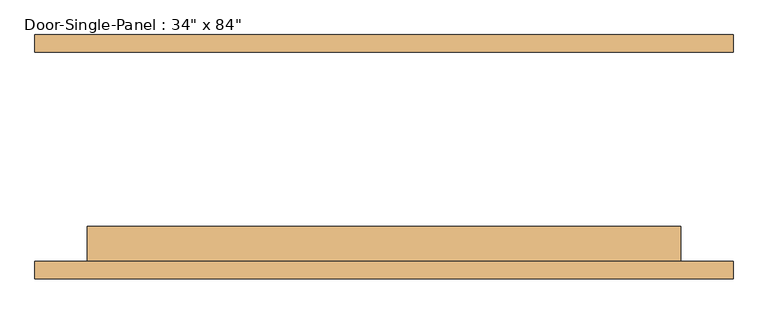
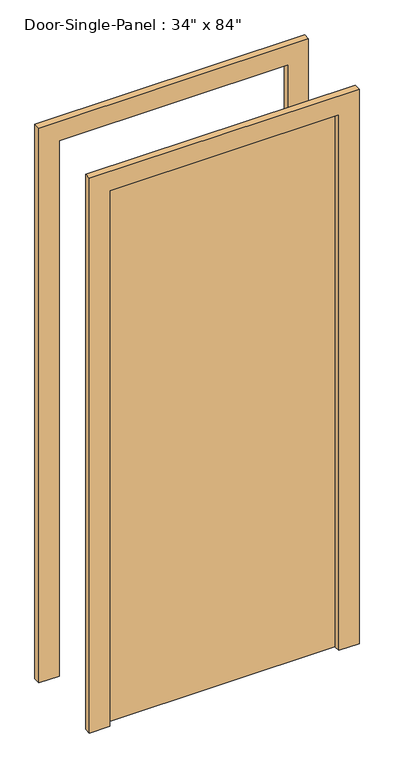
"""IFC4 building model written with IfcOpenShell, lengths in millimetres: door geometry."""

import ifcopenshell
import ifcopenshell.guid

model = None  # the IFC model being written
_history = None  # IfcOwnerHistory: only IFC2X3 demands one
_inside = {}  # id of a spatial element -> (the spatial element, [elements in it])
_under = {}  # id of a project, library or spatial element -> (it, [spatial elements below it])
_declared = {}  # id of a project -> (the project, [libraries it declares])
_typed = {}  # id of a type object -> (the type object, [elements of that type])
_made_of = {}  # id of a material, layer set ... -> (it, [elements and type objects made of it])


def new_model(schema):
    """Start an empty IFC model of exactly this schema.

    Asked for "IFC4X3", IfcOpenShell would pick the latest addendum, in which some entities
    have other attributes; the version numbers below select the first issue.
    IFC2X3 requires an IfcOwnerHistory on every rooted entity: one is made here for all.
    """
    global model, _history
    if schema == "IFC4X3":
        model = ifcopenshell.file(schema_version=(4, 3, 0, 0))
    else:
        model = ifcopenshell.file(schema=schema)
    _inside.clear()
    _under.clear()
    _declared.clear()
    _typed.clear()
    _made_of.clear()
    _history = None
    if model.schema == "IFC2X3":
        org = make("IfcOrganization", Name="unknown")
        user = make(
            "IfcPersonAndOrganization",
            ThePerson=make("IfcPerson", FamilyName="unknown"),
            TheOrganization=org,
        )
        app = make(
            "IfcApplication",
            ApplicationDeveloper=org,
            Version="unknown",
            ApplicationFullName="unknown",
            ApplicationIdentifier="unknown",
        )
        _history = make(
            "IfcOwnerHistory",
            OwningUser=user,
            OwningApplication=app,
            ChangeAction="ADDED",
            CreationDate=0,
        )
    return model


def make(cls, **values):
    """One entity of the class cls with the attributes given. An attribute that is None is left unset."""
    return model.create_entity(
        cls, **{name: value for name, value in values.items() if value is not None}
    )


def rooted(cls, **values):
    """An entity with a GlobalId (a new one), such as an element, a storey or a relation."""
    return make(cls, GlobalId=ifcopenshell.guid.new(), OwnerHistory=_history, **values)


def si_unit(unit_type, name, prefix=None):
    """IfcSIUnit, for example si_unit("LENGTHUNIT", "METRE", prefix="MILLI")."""
    return make("IfcSIUnit", UnitType=unit_type, Prefix=prefix, Name=name)


def assignment(units):
    """IfcUnitAssignment: the units of a project."""
    return None if units is None else make("IfcUnitAssignment", Units=units)


def point(xyz):
    """IfcCartesianPoint."""
    return None if xyz is None else make("IfcCartesianPoint", Coordinates=xyz)


def direction(xyz):
    """IfcDirection."""
    return None if xyz is None else make("IfcDirection", DirectionRatios=xyz)


def frame(location, z_axis=None, x_axis=None):
    """IfcAxis2Placement3D, a coordinate frame: its origin and axes. An axis left out is left unset."""
    return make(
        "IfcAxis2Placement3D",
        Location=point(location),
        Axis=direction(z_axis),
        RefDirection=direction(x_axis),
    )


def origin():
    """The frame at (0, 0, 0) with its axes left unset."""
    return frame((0.0, 0.0, 0.0))


def origin_with_axes():
    """The frame at (0, 0, 0) with the z axis (0, 0, 1) and the x axis (1, 0, 0) written out."""
    return frame((0.0, 0.0, 0.0), z_axis=(0.0, 0.0, 1.0), x_axis=(1.0, 0.0, 0.0))


def place(relative_to, where):
    """IfcLocalPlacement: puts the frame where relative to a parent placement (None: the world)."""
    return make(
        "IfcLocalPlacement", PlacementRelTo=relative_to, RelativePlacement=where
    )


def context(
    kind, dimensions, precision=None, world=None, true_north=None, identifier=None
):
    """IfcGeometricRepresentationContext, for example the 3D "Model" context."""
    return make(
        "IfcGeometricRepresentationContext",
        ContextIdentifier=identifier,
        ContextType=kind,
        CoordinateSpaceDimension=dimensions,
        Precision=precision,
        WorldCoordinateSystem=world,
        TrueNorth=true_north,
    )


def project(units=None, contexts=None):
    """IfcProject with its units and contexts."""
    return rooted(
        "IfcProject",
        Name="project",
        RepresentationContexts=contexts,
        UnitsInContext=assignment(units),
    )


def spatial(cls, under=None, at=None, **own):
    """A site, building, storey or space (cls), placed at a placement, below another one or the project."""
    s = rooted(cls, ObjectPlacement=at, **own)
    if under is not None:
        _under.setdefault(under.id(), (under, []))[1].append(s)
    return s


def polyline(points):
    """IfcPolyline through the points."""
    return make("IfcPolyline", Points=[point(p) for p in points])


def outline(outer, holes=None, kind="AREA"):
    """IfcArbitraryClosedProfileDef: a profile drawn as a closed curve; with holes, ...WithVoids."""
    if holes is None:
        return make("IfcArbitraryClosedProfileDef", ProfileType=kind, OuterCurve=outer)
    return make(
        "IfcArbitraryProfileDefWithVoids",
        ProfileType=kind,
        OuterCurve=outer,
        InnerCurves=holes,
    )


def extrude(swept, where, along, depth):
    """IfcExtrudedAreaSolid: the profile swept, set in the frame where, extruded along a direction by depth."""
    return make(
        "IfcExtrudedAreaSolid",
        SweptArea=swept,
        Position=where,
        ExtrudedDirection=direction(along),
        Depth=depth,
    )


def shape(context_of_items, identifier, shape_type, items):
    """IfcShapeRepresentation: the items that make up one representation, for example the "Body"."""
    return make(
        "IfcShapeRepresentation",
        ContextOfItems=context_of_items,
        RepresentationIdentifier=identifier,
        RepresentationType=shape_type,
        Items=items,
    )


def source(mapping_origin, context_of_items, identifier, shape_type, items):
    """IfcRepresentationMap: a shape defined once, which mapped items show again and again."""
    return make(
        "IfcRepresentationMap",
        MappingOrigin=mapping_origin,
        MappedRepresentation=shape(context_of_items, identifier, shape_type, items),
    )


def transform(
    local_origin,
    x_axis=None,
    y_axis=None,
    z_axis=None,
    scale=None,
    scale2=None,
    scale3=None,
    uniform=True,
):
    """IfcCartesianTransformationOperator3D, or its non-uniform kind. x_axis, y_axis, z_axis: its Axis1, 2, 3."""
    if uniform:
        return make(
            "IfcCartesianTransformationOperator3D",
            Axis1=direction(x_axis),
            Axis2=direction(y_axis),
            LocalOrigin=point(local_origin),
            Scale=scale,
            Axis3=direction(z_axis),
        )
    return make(
        "IfcCartesianTransformationOperator3DnonUniform",
        Axis1=direction(x_axis),
        Axis2=direction(y_axis),
        LocalOrigin=point(local_origin),
        Scale=scale,
        Axis3=direction(z_axis),
        Scale2=scale2,
        Scale3=scale3,
    )


def mapped(mapping_source, mapping_target):
    """IfcMappedItem: shows the shape of a source again, moved by a transform."""
    return make(
        "IfcMappedItem", MappingSource=mapping_source, MappingTarget=mapping_target
    )


def made_of(thing, what):
    """Note that an element or type object is made of a material, layer set ...; save() writes the relation."""
    if what is not None:
        _made_of.setdefault(what.id(), (what, []))[1].append(thing)
    return thing


def element(
    cls,
    number,
    at=None,
    inside=None,
    cuts=None,
    type_object=None,
    material=None,
    context=None,
    identifier="Body",
    shape_type=None,
    held_by="IfcProductDefinitionShape",
    body=None,
    shapes=None,
    **own,
):
    """One element of the class cls, such as IfcWall. Its Tag is "e" and its number.

    at: its placement. inside: the storey or other place that contains it. cuts: it is an
    opening in that element (IfcRelVoidsElement). A single representation is given by context,
    identifier, shape_type and body (its items); several are given by shapes. held_by: the class
    of the entity that holds the representations. save() writes the other relations.
    """
    e = rooted(cls, Tag="e%d" % number, ObjectPlacement=at, **own)
    if body is not None:
        shapes = [shape(context, identifier, shape_type, body)]
    if shapes is not None:
        e.Representation = make(held_by, Representations=shapes)
    if inside is not None:
        _inside.setdefault(inside.id(), (inside, []))[1].append(e)
    if cuts is not None:
        rooted(
            "IfcRelVoidsElement", RelatingBuildingElement=cuts, RelatedOpeningElement=e
        )
    if type_object is not None:
        _typed.setdefault(type_object.id(), (type_object, []))[1].append(e)
    return made_of(e, material)


def aggregate(whole, parts):
    """IfcRelAggregates: a whole, such as a stair, and the parts it consists of."""
    return rooted("IfcRelAggregates", RelatingObject=whole, RelatedObjects=parts)


def save(model, path):
    """Write the relations noted so far, then the file.

    IfcRelAggregates (storeys below a building ...), IfcRelContainedInSpatialStructure (elements
    in a storey), IfcRelDefinesByType, IfcRelAssociatesMaterial and IfcRelDeclares: one each for
    every whole, place, type object, material and project.
    """
    for whole, parts in _under.values():
        aggregate(whole, parts)
    for where, things in _inside.values():
        rooted(
            "IfcRelContainedInSpatialStructure",
            RelatedElements=things,
            RelatingStructure=where,
        )
    for kind, things in _typed.values():
        rooted("IfcRelDefinesByType", RelatedObjects=things, RelatingType=kind)
    for what, things in _made_of.values():
        rooted("IfcRelAssociatesMaterial", RelatedObjects=things, RelatingMaterial=what)
    for by, libraries in _declared.values():
        rooted("IfcRelDeclares", RelatingContext=by, RelatedDefinitions=libraries)
    model.write(path)


def door_dac54316(model_context):
    return source(origin(), model_context, "Body", "SweptSolid", [
        extrude(outline(polyline([(431.8, -101.6), (431.8, -152.4), (-431.8, -152.4), (-431.8, -101.6), (431.8, -101.6)])), origin_with_axes(), (0.0, 0.0, 1.0), 2133.6),
        extrude(outline(polyline([(2209.8, -508.0), (0.0, -508.0), (0.0, -431.8), (2133.6, -431.8), (2133.6, 431.8), (0.0, 431.8), (0.0, 508.0), (2209.8, 508.0), (2209.8, -508.0)])), frame((0.0, -177.8, 0.0), z_axis=(0.0, 1.0, 0.0), x_axis=(0.0, 0.0, 1.0)), (0.0, 0.0, 1.0), 25.4),
        extrude(outline(polyline([(2209.8, 508.0), (2209.8, -508.0), (0.0, -508.0), (0.0, -431.8), (2133.6, -431.8), (2133.6, 431.8), (0.0, 431.8), (0.0, 508.0), (2209.8, 508.0)])), frame((0.0, 152.4, 0.0), z_axis=(0.0, 1.0, 0.0), x_axis=(0.0, 0.0, 1.0)), (0.0, 0.0, 1.0), 25.4),
    ])


if __name__ == "__main__":
    model = new_model("IFC4")
    model_context = context("Model", 3, world=origin())
    ifc_project = project(units=[si_unit("LENGTHUNIT", "METRE", prefix="MILLI")], contexts=[model_context])
    site = spatial("IfcSite", under=ifc_project)
    building = spatial("IfcBuilding", under=site)
    placement = place(None, origin())
    door_shape = door_dac54316(model_context)
    element("IfcDoor", 1, ObjectType="Door-Single-Panel : 34\" x 84\"", at=placement, inside=building, context=model_context, shape_type="MappedRepresentation", body=[
        mapped(door_shape, transform((0.0, 0.0, 0.0), x_axis=(1.0, 0.0, 0.0), y_axis=(0.0, 1.0, 0.0), z_axis=(0.0, 0.0, 1.0))),
    ])
    save(model, "model.ifc")
